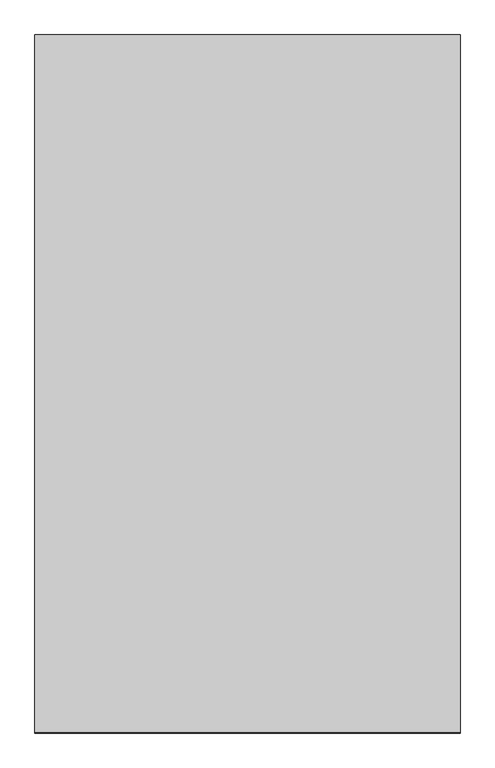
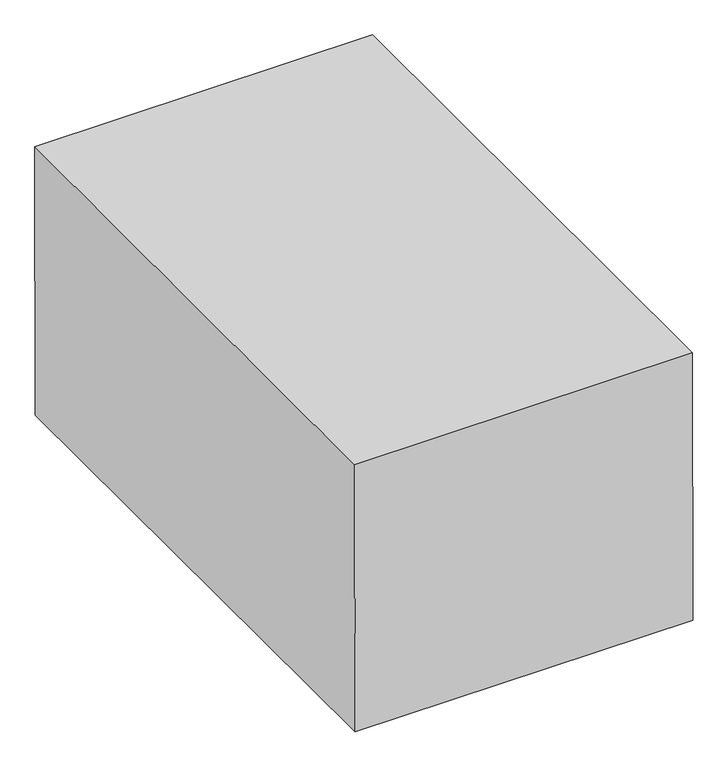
"""IFC4 building model written with IfcOpenShell, lengths in millimetres: proxy geometry, Excavation FamilySP : Excavation FamilySP."""

from ifc_helpers import new_model, si_unit, frame, origin, place, context, project, spatial, polyline, outline, extrude, source, transform, mapped, element, save


def generic_models_48de9235(model_context):
    return source(origin(), model_context, "Body", "SweptSolid", [
        extrude(outline(polyline([(5.6455658, 2554.2775402), (0.0, 0.0), (-4999.9877947, 11.0511719), (-4994.3664356, 2554.3766569), (5.6455658, 2554.2775402)])), frame((-1524.0, 0.0, 0.0), z_axis=(1.0, 0.0, 0.0), x_axis=(0.0, 1.0, 0.0)), (0.0, 0.0, 1.0), 3048.0),
    ])


if __name__ == "__main__":
    model = new_model("IFC4")
    model_context = context("Model", 3, world=origin())
    ifc_project = project(units=[si_unit("LENGTHUNIT", "METRE", prefix="MILLI")], contexts=[model_context])
    site = spatial("IfcSite", under=ifc_project)
    building = spatial("IfcBuilding", under=site)
    placement = place(None, origin())
    generic_models_shape = generic_models_48de9235(model_context)
    element("IfcBuildingElementProxy", 1, Name="Excavation FamilySP : Excavation FamilySP", ObjectType="Excavation FamilySP : Excavation FamilySP", at=placement, inside=building, context=model_context, shape_type="MappedRepresentation", body=[
        mapped(generic_models_shape, transform((0.0, 0.0, 0.0), x_axis=(1.0, 0.0, 0.0), y_axis=(0.0, 1.0, 0.0), z_axis=(0.0, 0.0, 1.0))),
    ])
    save(model, "model.ifc")
